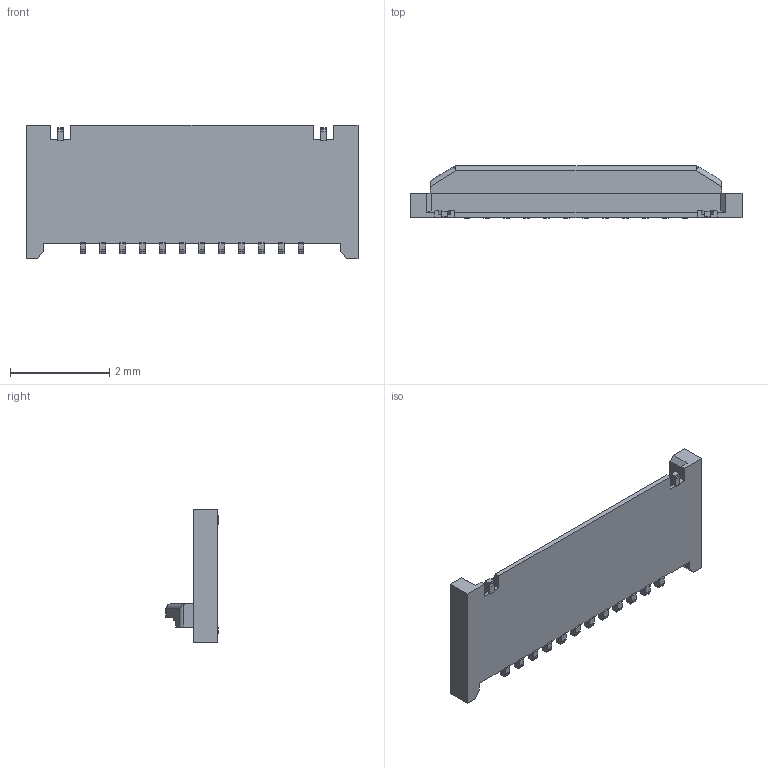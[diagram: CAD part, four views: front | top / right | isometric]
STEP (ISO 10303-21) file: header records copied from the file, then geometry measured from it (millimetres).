
FILE_DESCRIPTION (( 'STEP AP203' ), '1' );
FILE_NAME ('20588-012E-01 ACT OPEN ASSY STEP R5 ALL.STEP', '2015-08-06T06:49:51', ( 'kaihatsu-3dcad-3' ), ( '' ), 'SwSTEP 2.0', 'SolidWorks 2012', '' );
FILE_SCHEMA (( 'CONFIG_CONTROL_DESIGN' ));
Length unit declared in the file: millimetre
Products named in the file (1): 20588-012E-01 ACT OPEN ASSY STEP R5 ALL
Bounding box: 6.7 x 1.05 x 2.7 mm (x, y, z)
Volume: 8.2 mm3; surface area: 49.3 mm2
Topology: 1 solids, 1 shells, 210 faces, 630 edges, 418 vertices
Faces by surface type: plane 157, cylinder 51, bspline 2
Entity records: 7131 total; most frequent: CARTESIAN_POINT 1301, ORIENTED_EDGE 1260, DIRECTION 1142, EDGE_CURVE 630, LINE 528, VECTOR 528, VERTEX_POINT 418, AXIS2_PLACEMENT_3D 307
